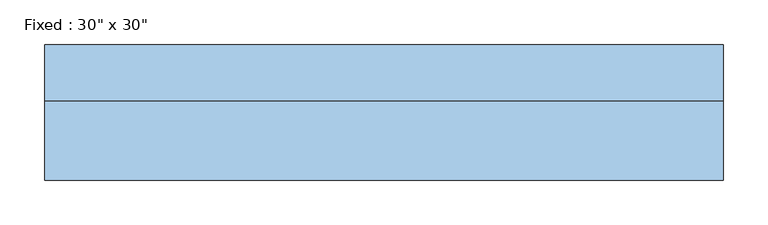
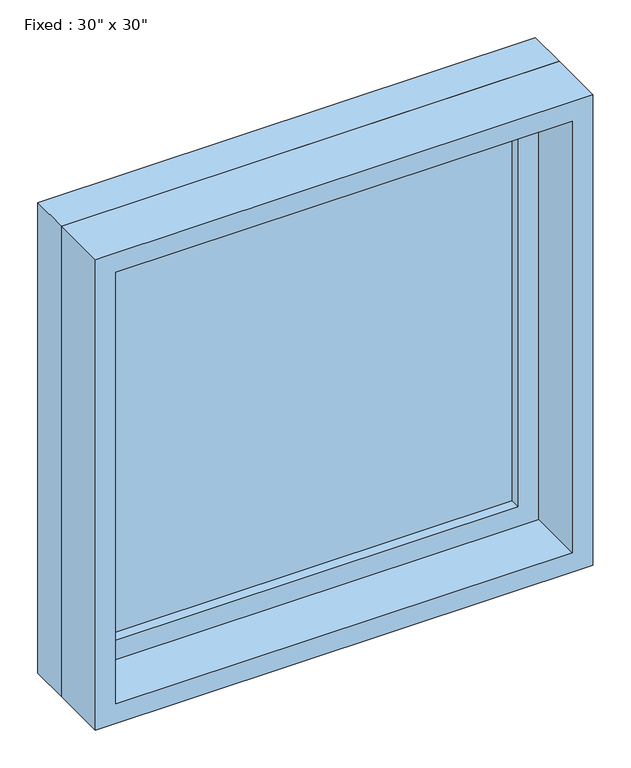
"""IFC4 building model written with IfcOpenShell, lengths in millimetres: window geometry."""

from ifc_helpers import new_model, si_unit, frame, origin, place, context, project, spatial, polyline, outline, extrude, source, transform, mapped, element, save


def window_e76804c0(model_context):
    return source(origin(), model_context, "Body", "SweptSolid", [
        extrude(outline(polyline([(279.4, 28.575), (-355.6, 28.575), (-355.6, 41.275), (279.4, 41.275), (279.4, 28.575)])), frame((0.0, 0.0, 825.5), z_axis=(0.0, 0.0, 1.0), x_axis=(1.0, 0.0, 0.0)), (0.0, 0.0, 1.0), 635.0),
        extrude(outline(polyline([(1504.95, -400.05), (781.05, -400.05), (781.05, 323.85), (1504.95, 323.85), (1504.95, -400.05)]), holes=[polyline([(1460.5, -355.6), (1460.5, 279.4), (825.5, 279.4), (825.5, -355.6), (1460.5, -355.6)])]), frame((0.0, 12.7, 0.0), z_axis=(0.0, 1.0, 0.0), x_axis=(0.0, 0.0, 1.0)), (0.0, 0.0, 1.0), 44.45),
        extrude(outline(polyline([(1524.0, -419.1), (762.0, -419.1), (762.0, 342.9), (1524.0, 342.9), (1524.0, -419.1)]), holes=[polyline([(1492.25, -387.35), (1492.25, 311.15), (793.75, 311.15), (793.75, -387.35), (1492.25, -387.35)])]), frame((0.0, -76.2, 0.0), z_axis=(0.0, 1.0, 0.0), x_axis=(0.0, 0.0, 1.0)), (0.0, 0.0, 1.0), 88.9),
        extrude(outline(polyline([(1524.0, 342.9), (1524.0, -419.1), (762.0, -419.1), (762.0, 342.9), (1524.0, 342.9)]), holes=[polyline([(1504.95, 323.85), (781.05, 323.85), (781.05, -400.05), (1504.95, -400.05), (1504.95, 323.85)])]), frame((0.0, 12.7, 0.0), z_axis=(0.0, 1.0, 0.0), x_axis=(0.0, 0.0, 1.0)), (0.0, 0.0, 1.0), 63.5),
    ])


if __name__ == "__main__":
    model = new_model("IFC4")
    model_context = context("Model", 3, world=origin())
    ifc_project = project(units=[si_unit("LENGTHUNIT", "METRE", prefix="MILLI")], contexts=[model_context])
    site = spatial("IfcSite", under=ifc_project)
    building = spatial("IfcBuilding", under=site)
    placement = place(None, origin())
    window_shape = window_e76804c0(model_context)
    element("IfcWindow", 1, ObjectType="Fixed : 30\" x 30\"", at=placement, inside=building, context=model_context, shape_type="MappedRepresentation", body=[
        mapped(window_shape, transform((0.0, 0.0, 0.0), x_axis=(1.0, 0.0, 0.0), y_axis=(0.0, 1.0, 0.0), z_axis=(0.0, 0.0, 1.0))),
    ])
    save(model, "model.ifc")
